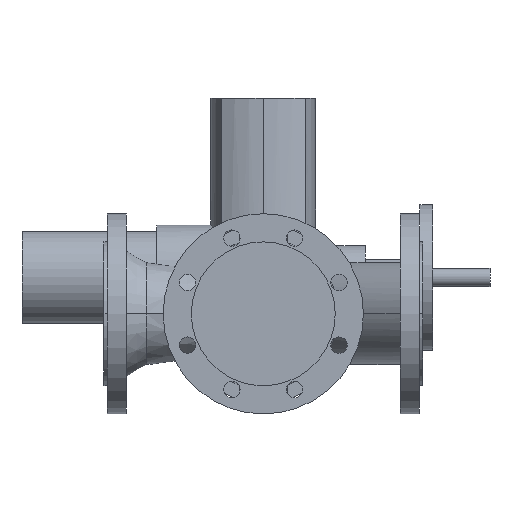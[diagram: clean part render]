
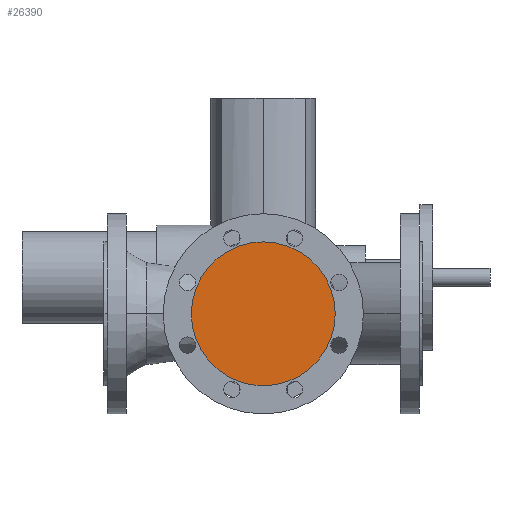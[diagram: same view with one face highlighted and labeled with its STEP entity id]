
A CAD part, front view. The second image highlights one B-rep face of the part: STEP entity #26390.
In plain terms, the highlighted planar face has unit normal (0, -1, 0).
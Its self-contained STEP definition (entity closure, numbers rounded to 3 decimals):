
#3170=CARTESIAN_POINT('',(254.,-150.,0.));
#3180=VERTEX_POINT('',#3170);
#3340=CARTESIAN_POINT('',(96.,-150.,0.));
#3350=VERTEX_POINT('',#3340);
#3380=CARTESIAN_POINT('',(175.,-150.,0.));
#3390=DIRECTION('',(0.,1.,0.));
#3400=DIRECTION('',(1.,0.,0.));
#3410=AXIS2_PLACEMENT_3D('',#3380,#3390,#3400);
#3420=CIRCLE('',#3410,79.);
#3430=EDGE_CURVE('',#3180,#3350,#3420,.T.);
#26290=CARTESIAN_POINT('',(214.5,-150.,0.));
#26300=DIRECTION('',(0.,-1.,0.));
#26310=DIRECTION('',(-1.,0.,0.));
#26320=AXIS2_PLACEMENT_3D('',#26290,#26300,#26310);
#26330=PLANE('',#26320);
#26340=EDGE_CURVE('',#3350,#3180,#3420,.T.);
#26350=ORIENTED_EDGE('',*,*,#26340,.F.);
#26360=ORIENTED_EDGE('',*,*,#3430,.F.);
#26370=EDGE_LOOP('',(#26360,#26350));
#26380=FACE_OUTER_BOUND('',#26370,.T.);
#26390=ADVANCED_FACE('',(#26380),#26330,.T.);
